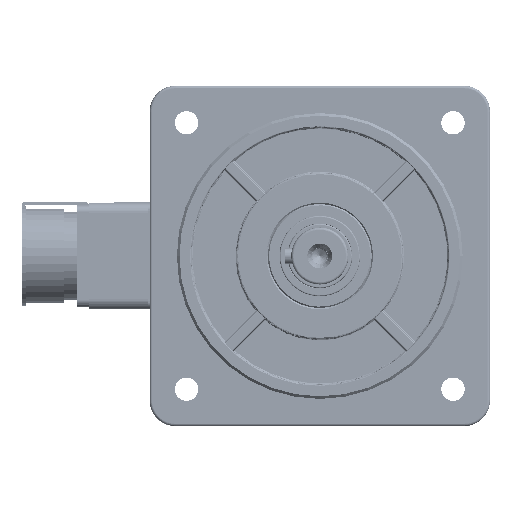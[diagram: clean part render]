
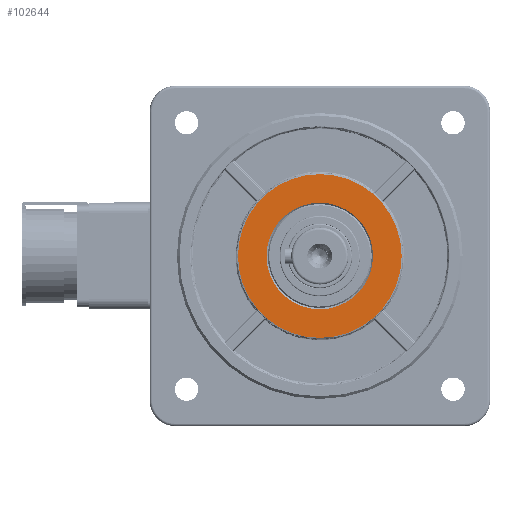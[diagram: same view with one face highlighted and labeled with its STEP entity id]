
A CAD part, left-side view. The second image highlights one B-rep face of the part: STEP entity #102644.
In plain terms, the highlighted planar face has unit normal (-1, 0, 0) as drawn and (1, 0, 0) by its records, which use the part's own axes.
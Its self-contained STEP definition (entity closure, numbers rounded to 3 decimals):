
#1656 = CARTESIAN_POINT ( 'NONE',  ( 30., 0., -31.5 ) ) ;
#3458 = CARTESIAN_POINT ( 'NONE',  ( 30., 0., 0. ) ) ;
#3582 = AXIS2_PLACEMENT_3D ( 'NONE', #16656, #53660, #90671 ) ;
#4458 = DIRECTION ( 'NONE',  ( 0., 0., 1. ) ) ;
#10135 = CARTESIAN_POINT ( 'NONE',  ( 30., 0., 0. ) ) ;
#11562 = AXIS2_PLACEMENT_3D ( 'NONE', #10135, #47117, #84116 ) ;
#11563 = VERTEX_POINT ( 'NONE', #31512 ) ;
#12399 = DIRECTION ( 'NONE',  ( 0., 0., 1. ) ) ;
#12770 = EDGE_LOOP ( 'NONE', ( #17509, #65901 ) ) ;
#14233 = CIRCLE ( 'NONE', #82030, 31.5 ) ;
#16656 = CARTESIAN_POINT ( 'NONE',  ( 30., 0., 0. ) ) ;
#17509 = ORIENTED_EDGE ( 'NONE', *, *, #112201, .T. ) ;
#19458 = AXIS2_PLACEMENT_3D ( 'NONE', #58501, #95509, #12399 ) ;
#21487 = PLANE ( 'NONE',  #19458 ) ;
#27482 = EDGE_CURVE ( 'NONE', #37537, #11563, #42308, .T. ) ;
#31512 = CARTESIAN_POINT ( 'NONE',  ( 30., 0., 31.5 ) ) ;
#37537 = VERTEX_POINT ( 'NONE', #1656 ) ;
#40463 = DIRECTION ( 'NONE',  ( 1., 0., 0. ) ) ;
#42308 = CIRCLE ( 'NONE', #57851, 31.5 ) ;
#46287 = CARTESIAN_POINT ( 'NONE',  ( 30., 0., 20.5 ) ) ;
#47117 = DIRECTION ( 'NONE',  ( -1., 0., 0. ) ) ;
#48774 = EDGE_CURVE ( 'NONE', #111554, #96560, #63877, .T. ) ;
#50563 = CARTESIAN_POINT ( 'NONE',  ( 30., 0., 0. ) ) ;
#53660 = DIRECTION ( 'NONE',  ( -1., 0., 0. ) ) ;
#55932 = CIRCLE ( 'NONE', #3582, 20.5 ) ;
#57851 = AXIS2_PLACEMENT_3D ( 'NONE', #50563, #87564, #4458 ) ;
#58501 = CARTESIAN_POINT ( 'NONE',  ( 30., 20., 0. ) ) ;
#63877 = CIRCLE ( 'NONE', #11562, 20.5 ) ;
#65901 = ORIENTED_EDGE ( 'NONE', *, *, #27482, .T. ) ;
#67612 = FACE_BOUND ( 'NONE', #81218, .T. ) ;
#77476 = DIRECTION ( 'NONE',  ( 0., 0., 1. ) ) ;
#81218 = EDGE_LOOP ( 'NONE', ( #105117, #102764 ) ) ;
#82030 = AXIS2_PLACEMENT_3D ( 'NONE', #3458, #40463, #77476 ) ;
#84116 = DIRECTION ( 'NONE',  ( 0., 0., 1. ) ) ;
#84417 = EDGE_CURVE ( 'NONE', #96560, #111554, #55932, .T. ) ;
#87564 = DIRECTION ( 'NONE',  ( 1., 0., 0. ) ) ;
#90671 = DIRECTION ( 'NONE',  ( 0., 0., 1. ) ) ;
#95509 = DIRECTION ( 'NONE',  ( -1., 0., 0. ) ) ;
#95641 = CARTESIAN_POINT ( 'NONE',  ( 30., 0., -20.5 ) ) ;
#96560 = VERTEX_POINT ( 'NONE', #95641 ) ;
#102644 = ADVANCED_FACE ( 'NONE', ( #67612, #104620 ), #21487, .F. ) ;
#102764 = ORIENTED_EDGE ( 'NONE', *, *, #48774, .T. ) ;
#104620 = FACE_OUTER_BOUND ( 'NONE', #12770, .T. ) ;
#105117 = ORIENTED_EDGE ( 'NONE', *, *, #84417, .T. ) ;
#111554 = VERTEX_POINT ( 'NONE', #46287 ) ;
#112201 = EDGE_CURVE ( 'NONE', #11563, #37537, #14233, .T. ) ;
